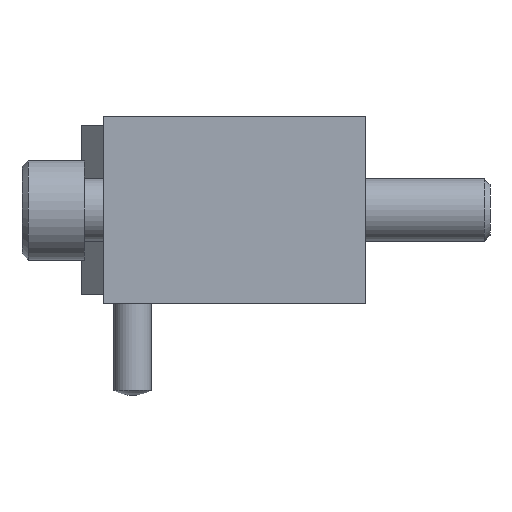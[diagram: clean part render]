
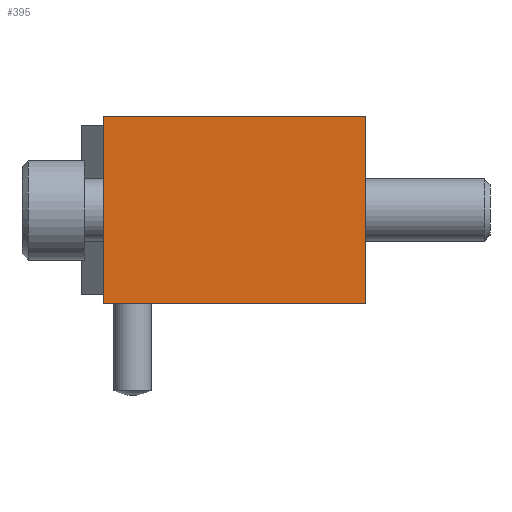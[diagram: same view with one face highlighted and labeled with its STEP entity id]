
A CAD part, left-side view. The second image highlights one B-rep face of the part: STEP entity #395.
In plain terms, the highlighted planar face has unit normal (-1, 0, 0).
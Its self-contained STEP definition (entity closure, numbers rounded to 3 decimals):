
#395 = ADVANCED_FACE( '', ( #743 ), #744, .F. );
#743 = FACE_OUTER_BOUND( '', #1090, .T. );
#744 = PLANE( '', #1091 );
#1090 = EDGE_LOOP( '', ( #1695, #1696, #1697, #1698 ) );
#1091 = AXIS2_PLACEMENT_3D( '', #1699, #1700, #1701 );
#1695 = ORIENTED_EDGE( '', *, *, #2014, .T. );
#1696 = ORIENTED_EDGE( '', *, *, #2078, .F. );
#1697 = ORIENTED_EDGE( '', *, *, #2133, .F. );
#1698 = ORIENTED_EDGE( '', *, *, #2024, .T. );
#1699 = CARTESIAN_POINT( '', ( 0., 42., -15. ) );
#1700 = DIRECTION( '', ( 1., 0., 0. ) );
#1701 = DIRECTION( '', ( 0., 0., -1. ) );
#2014 = EDGE_CURVE( '', #2334, #2335, #2336, .T. );
#2024 = EDGE_CURVE( '', #2353, #2334, #2354, .T. );
#2078 = EDGE_CURVE( '', #2433, #2335, #2435, .T. );
#2133 = EDGE_CURVE( '', #2353, #2433, #2518, .T. );
#2334 = VERTEX_POINT( '', #2776 );
#2335 = VERTEX_POINT( '', #2777 );
#2336 = LINE( '', #2778, #2779 );
#2353 = VERTEX_POINT( '', #2803 );
#2354 = LINE( '', #2804, #2805 );
#2433 = VERTEX_POINT( '', #2915 );
#2435 = LINE( '', #2918, #2919 );
#2518 = LINE( '', #3033, #3034 );
#2776 = CARTESIAN_POINT( '', ( 0., 0., -15. ) );
#2777 = CARTESIAN_POINT( '', ( 0., 0., 15. ) );
#2778 = CARTESIAN_POINT( '', ( 0., 0., -15. ) );
#2779 = VECTOR( '', #3319, 1000. );
#2803 = CARTESIAN_POINT( '', ( 0., 42., -15. ) );
#2804 = CARTESIAN_POINT( '', ( 0., 42., -15. ) );
#2805 = VECTOR( '', #3330, 1000. );
#2915 = CARTESIAN_POINT( '', ( 0., 42., 15. ) );
#2918 = CARTESIAN_POINT( '', ( 0., 42., 15. ) );
#2919 = VECTOR( '', #3387, 1000. );
#3033 = CARTESIAN_POINT( '', ( 0., 42., -15. ) );
#3034 = VECTOR( '', #3437, 1000. );
#3319 = DIRECTION( '', ( 0., 0., 1. ) );
#3330 = DIRECTION( '', ( 0., -1., 0. ) );
#3387 = DIRECTION( '', ( 0., -1., 0. ) );
#3437 = DIRECTION( '', ( 0., 0., 1. ) );
